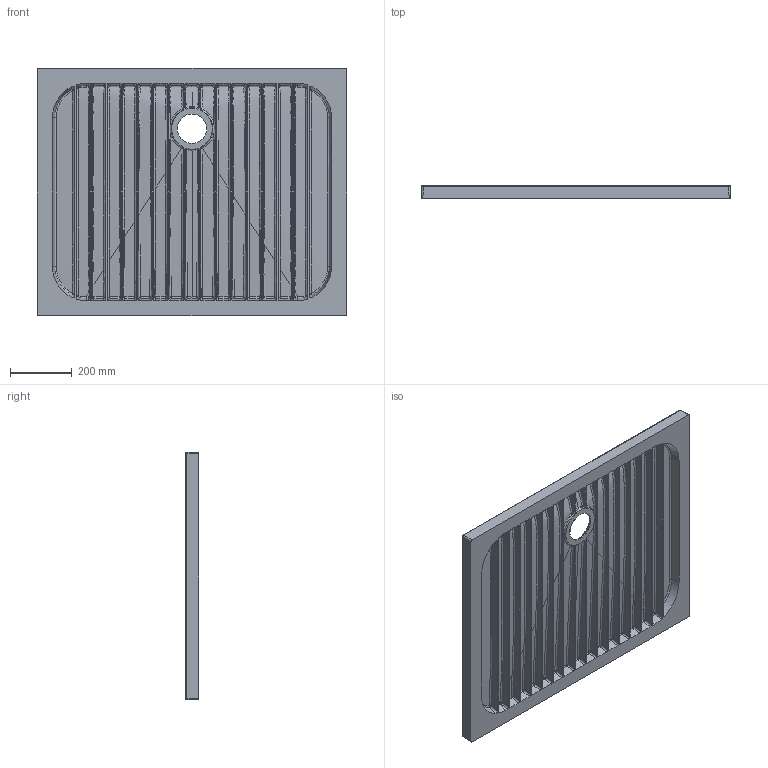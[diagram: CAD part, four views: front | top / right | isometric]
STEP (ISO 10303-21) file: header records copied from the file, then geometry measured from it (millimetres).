
FILE_DESCRIPTION (( 'STEP AP203' ), '1' );
FILE_NAME ('CUBE80X100.STEP', '2019-04-05T07:35:49', ( '' ), ( '' ), 'SwSTEP 2.0', 'SolidWorks 2019', '' );
FILE_SCHEMA (( 'CONFIG_CONTROL_DESIGN' ));
Products named in the file (1): CUBE80X100
Bounding box: 1001.5 x 43 x 801.5 mm (x, y, z)
Volume: 17136593.4 mm3; surface area: 2204733.9 mm2
Topology: 1 solids, 1 shells, 1161 faces, 2736 edges, 1621 vertices
Faces by surface type: bspline 912, sphere 90, plane 74, cylinder 66, cone 15, torus 4
Entity records: 107984 total; most frequent: CARTESIAN_POINT 87269, ORIENTED_EDGE 5464, DIRECTION 2751, EDGE_CURVE 2732, VERTEX_POINT 1621, B_SPLINE_CURVE_WITH_KNOTS 1440, AXIS2_PLACEMENT_3D 1269, EDGE_LOOP 1211
